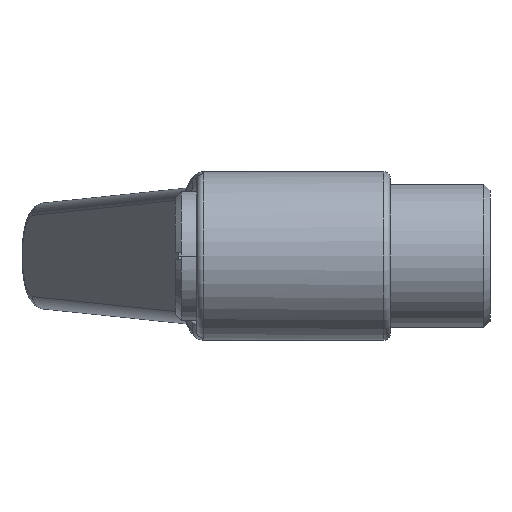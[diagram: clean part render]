
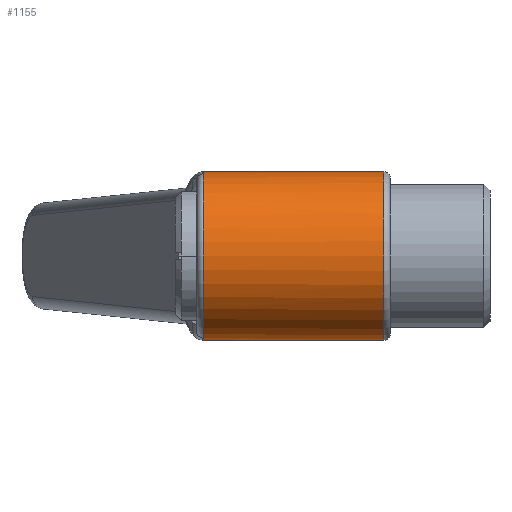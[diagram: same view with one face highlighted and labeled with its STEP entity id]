
A CAD part, left-side view. The second image highlights one B-rep face of the part: STEP entity #1155.
In plain terms, the highlighted cylindrical face has radius 13.5 mm (diameter 27 mm), a partial arc.
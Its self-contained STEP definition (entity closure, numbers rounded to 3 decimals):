
#1 = DIRECTION ( 'NONE',  ( 0., -1., 0. ) ) ;
#116 = CIRCLE ( 'NONE', #513, 13.5 ) ;
#119 = CIRCLE ( 'NONE', #553, 13.5 ) ;
#221 = B_SPLINE_CURVE_WITH_KNOTS ( 'NONE', 3,
 ( #2054, #2256, #1509, #330 ),
 .UNSPECIFIED., .F., .F.,
 ( 4, 4 ),
 ( 0., 0.003 ),
 .UNSPECIFIED. ) ;
#257 = VECTOR ( 'NONE', #379, 1000. ) ;
#266 = LINE ( 'NONE', #396, #257 ) ;
#287 = VECTOR ( 'NONE', #1106, 1000. ) ;
#294 = LINE ( 'NONE', #1151, #287 ) ;
#325 = CARTESIAN_POINT ( 'NONE',  ( -0.941, -0.933, 13.475 ) ) ;
#330 = CARTESIAN_POINT ( 'NONE',  ( 0., -0.838, -13.5 ) ) ;
#379 = DIRECTION ( 'NONE',  ( 0., -1., 0. ) ) ;
#396 = CARTESIAN_POINT ( 'NONE',  ( 0., 31., -13.5 ) ) ;
#489 = CARTESIAN_POINT ( 'NONE',  ( -2.35, -1., 13.302 ) ) ;
#513 = AXIS2_PLACEMENT_3D ( 'NONE', #2060, #899, #2264 ) ;
#553 = AXIS2_PLACEMENT_3D ( 'NONE', #1112, #1, #1329 ) ;
#602 = CYLINDRICAL_SURFACE ( 'NONE', #1893, 13.5 ) ;
#609 = B_SPLINE_CURVE_WITH_KNOTS ( 'NONE', 3,
 ( #2248, #1103, #325, #1685, #489, #1892 ),
 .UNSPECIFIED., .F., .F.,
 ( 4, 2, 4 ),
 ( 0.003, 0.004, 0.006 ),
 .UNSPECIFIED. ) ;
#617 = FACE_OUTER_BOUND ( 'NONE', #1033, .T. ) ;
#680 = CARTESIAN_POINT ( 'NONE',  ( 0., -30., -13.5 ) ) ;
#701 = CARTESIAN_POINT ( 'NONE',  ( 0., -0.838, -13.5 ) ) ;
#766 = CARTESIAN_POINT ( 'NONE',  ( 0., -30., 13.5 ) ) ;
#808 = DIRECTION ( 'NONE',  ( 0., -1., 0. ) ) ;
#820 = DIRECTION ( 'NONE',  ( 0., 0., -1. ) ) ;
#825 = CARTESIAN_POINT ( 'NONE',  ( 0., 31., 0. ) ) ;
#899 = DIRECTION ( 'NONE',  ( 0., 1., 0. ) ) ;
#976 = VERTEX_POINT ( 'NONE', #1979 ) ;
#1029 = VERTEX_POINT ( 'NONE', #766 ) ;
#1033 = EDGE_LOOP ( 'NONE', ( #1280, #1286, #2109, #1302, #1307, #1314 ) ) ;
#1099 = CARTESIAN_POINT ( 'NONE',  ( -2.815, -1., 13.203 ) ) ;
#1103 = CARTESIAN_POINT ( 'NONE',  ( -0.467, -0.892, 13.5 ) ) ;
#1106 = DIRECTION ( 'NONE',  ( 0., -1., 0. ) ) ;
#1112 = CARTESIAN_POINT ( 'NONE',  ( 0., -1., 0. ) ) ;
#1151 = CARTESIAN_POINT ( 'NONE',  ( 0., 31., 13.5 ) ) ;
#1155 = ADVANCED_FACE ( 'NONE', ( #617 ), #602, .T. ) ;
#1168 = VERTEX_POINT ( 'NONE', #680 ) ;
#1250 = VERTEX_POINT ( 'NONE', #2080 ) ;
#1280 = ORIENTED_EDGE ( 'NONE', *, *, #2233, .F. ) ;
#1286 = ORIENTED_EDGE ( 'NONE', *, *, #2380, .T. ) ;
#1302 = ORIENTED_EDGE ( 'NONE', *, *, #2384, .T. ) ;
#1307 = ORIENTED_EDGE ( 'NONE', *, *, #2273, .T. ) ;
#1314 = ORIENTED_EDGE ( 'NONE', *, *, #2386, .T. ) ;
#1329 = DIRECTION ( 'NONE',  ( 0., 0., -1. ) ) ;
#1509 = CARTESIAN_POINT ( 'NONE',  ( -0.94, -0.947, -13.5 ) ) ;
#1685 = CARTESIAN_POINT ( 'NONE',  ( -1.882, -0.987, 13.377 ) ) ;
#1892 = CARTESIAN_POINT ( 'NONE',  ( -2.815, -1., 13.203 ) ) ;
#1893 = AXIS2_PLACEMENT_3D ( 'NONE', #825, #808, #820 ) ;
#1979 = CARTESIAN_POINT ( 'NONE',  ( 0., -0.838, 13.5 ) ) ;
#2054 = CARTESIAN_POINT ( 'NONE',  ( -2.815, -1., -13.203 ) ) ;
#2060 = CARTESIAN_POINT ( 'NONE',  ( 0., -30., 0. ) ) ;
#2080 = CARTESIAN_POINT ( 'NONE',  ( -2.815, -1., -13.203 ) ) ;
#2109 = ORIENTED_EDGE ( 'NONE', *, *, #2381, .T. ) ;
#2233 = EDGE_CURVE ( 'NONE', #976, #1029, #294, .T. ) ;
#2240 = VERTEX_POINT ( 'NONE', #1099 ) ;
#2248 = CARTESIAN_POINT ( 'NONE',  ( 0., -0.838, 13.5 ) ) ;
#2256 = CARTESIAN_POINT ( 'NONE',  ( -1.878, -1., -13.403 ) ) ;
#2258 = VERTEX_POINT ( 'NONE', #701 ) ;
#2264 = DIRECTION ( 'NONE',  ( 0., 0., 1. ) ) ;
#2273 = EDGE_CURVE ( 'NONE', #2258, #1168, #266, .T. ) ;
#2380 = EDGE_CURVE ( 'NONE', #976, #2240, #609, .T. ) ;
#2381 = EDGE_CURVE ( 'NONE', #2240, #1250, #119, .T. ) ;
#2384 = EDGE_CURVE ( 'NONE', #1250, #2258, #221, .T. ) ;
#2386 = EDGE_CURVE ( 'NONE', #1168, #1029, #116, .T. ) ;
